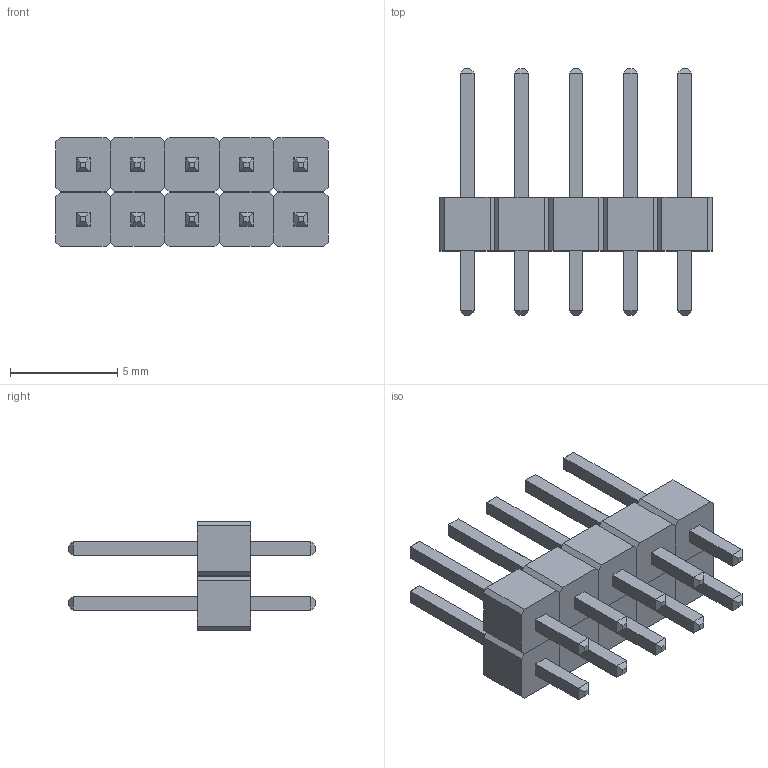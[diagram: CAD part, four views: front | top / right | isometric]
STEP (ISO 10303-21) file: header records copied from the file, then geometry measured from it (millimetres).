
FILE_DESCRIPTION (( 'STEP AP214' ), '1' );
FILE_NAME ('Header10.STEP', '2018-03-15T17:21:38', ( '' ), ( '' ), 'SwSTEP 2.0', 'SolidWorks 2016', '' );
FILE_SCHEMA (( 'AUTOMOTIVE_DESIGN' ));
Length unit declared in the file: millimetre
Products named in the file (3): Header5; Header; Header10
Assembly tree (7 placements, depth 3):
  Header10
    Header5  x2
      Header
Bounding box: 12.7 x 11.5 x 5.08 mm (x, y, z)
Volume: 196.5 mm3; surface area: 596.3 mm2
Topology: 10 solids, 10 shells, 280 faces, 640 edges, 400 vertices
Faces by surface type: plane 280
Entity records: 1204 total; most frequent: CARTESIAN_POINT 143, DIRECTION 142, ORIENTED_EDGE 128, VECTOR 64, EDGE_CURVE 64, LINE 64, VERTEX_POINT 40, AXIS2_PLACEMENT_3D 39
